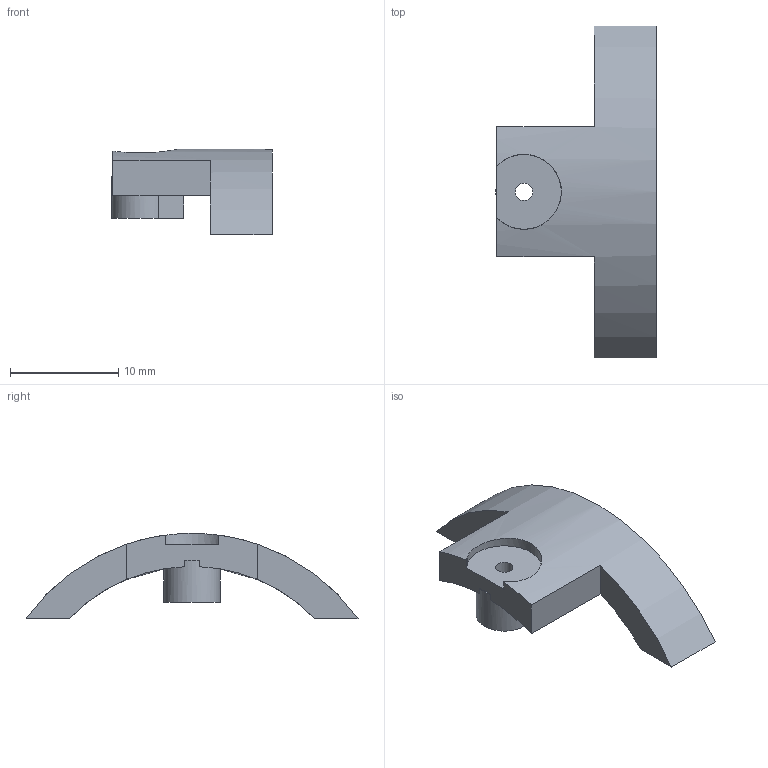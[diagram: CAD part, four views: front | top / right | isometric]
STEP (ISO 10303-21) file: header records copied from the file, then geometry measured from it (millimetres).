
FILE_DESCRIPTION(('SkyG Speed 90B - revision C6B-6 - 2026-10-08','HL2-hatch-lip-rear'),'2;1');
FILE_NAME('HL2-hatch-lip-rear_C6B-6','2026-10-08T12:31:00',('Author'),( 'Open CASCADE'),'Open CASCADE STEP processor 7.9','Open CASCADE 7.9' ,'Unknown');
FILE_SCHEMA(('AUTOMOTIVE_DESIGN { 1 0 10303 214 1 1 1 1 }'));
Length unit declared in the file: millimetre
Products named in the file (1): HL2-hatch-lip-rear C6B-6
Bounding box: 14.8 x 30.62 x 7.85 mm (x, y, z)
Volume: 901.7 mm3; surface area: 947.9 mm2
Topology: 1 solids, 1 shells, 20 faces, 54 edges, 36 vertices
Faces by surface type: plane 15, cylinder 5
Full cylindrical faces by diameter (mm): 1.6 x1
Entity records: 1714 total; most frequent: CARTESIAN_POINT 687, DIRECTION 171, ORIENTED_EDGE 108, PCURVE 108, DEFINITIONAL_REPRESENTATION 108, LINE 75, VECTOR 75, EDGE_CURVE 54
